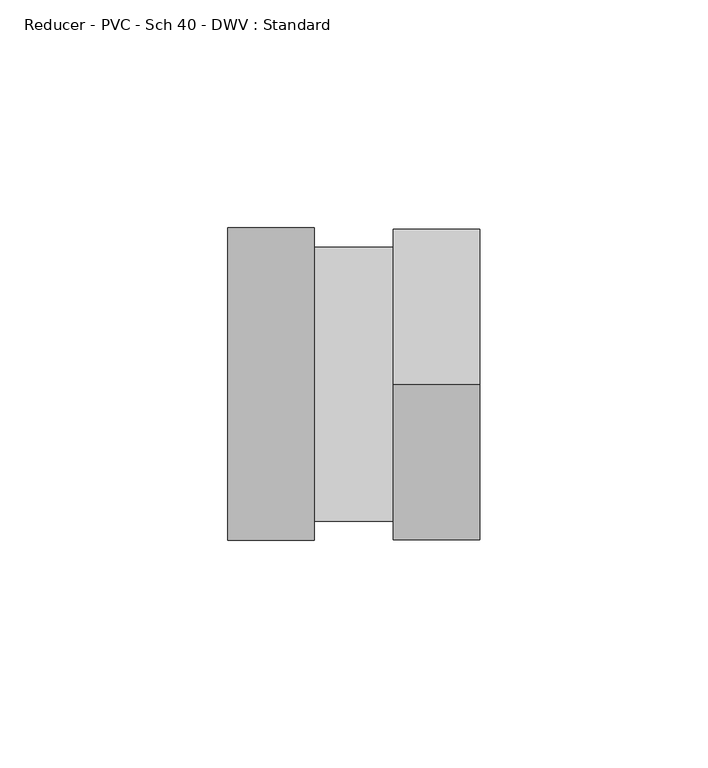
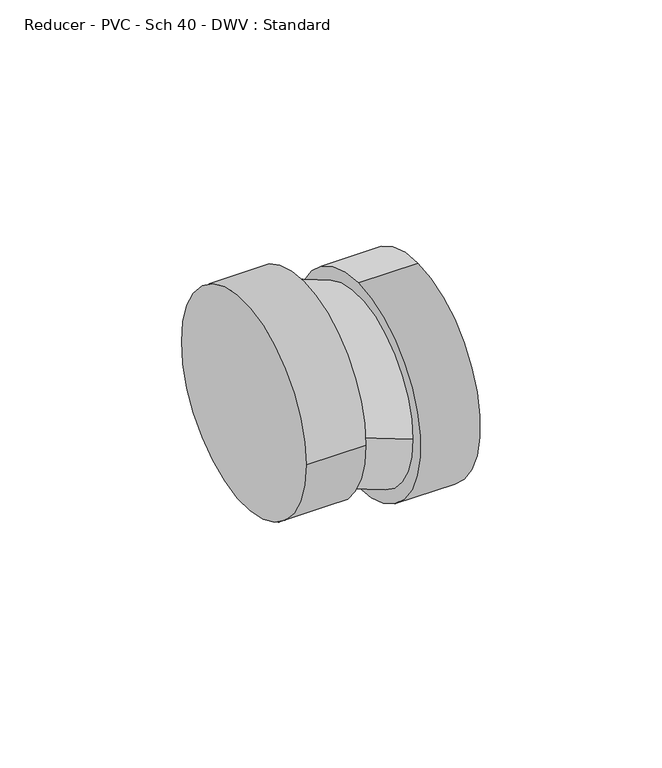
"""IFC4 building model written with IfcOpenShell, lengths in millimetres: pipe fitting geometry, Reducer - PVC - Sch 40 - DWV : Standard."""

import ifcopenshell
import ifcopenshell.guid

model = None  # the IFC model being written
_history = None  # IfcOwnerHistory: only IFC2X3 demands one
_inside = {}  # id of a spatial element -> (the spatial element, [elements in it])
_under = {}  # id of a project, library or spatial element -> (it, [spatial elements below it])
_declared = {}  # id of a project -> (the project, [libraries it declares])
_typed = {}  # id of a type object -> (the type object, [elements of that type])
_made_of = {}  # id of a material, layer set ... -> (it, [elements and type objects made of it])


def new_model(schema):
    """Start an empty IFC model of exactly this schema.

    Asked for "IFC4X3", IfcOpenShell would pick the latest addendum, in which some entities
    have other attributes; the version numbers below select the first issue.
    IFC2X3 requires an IfcOwnerHistory on every rooted entity: one is made here for all.
    """
    global model, _history
    if schema == "IFC4X3":
        model = ifcopenshell.file(schema_version=(4, 3, 0, 0))
    else:
        model = ifcopenshell.file(schema=schema)
    _inside.clear()
    _under.clear()
    _declared.clear()
    _typed.clear()
    _made_of.clear()
    _history = None
    if model.schema == "IFC2X3":
        org = make("IfcOrganization", Name="unknown")
        user = make(
            "IfcPersonAndOrganization",
            ThePerson=make("IfcPerson", FamilyName="unknown"),
            TheOrganization=org,
        )
        app = make(
            "IfcApplication",
            ApplicationDeveloper=org,
            Version="unknown",
            ApplicationFullName="unknown",
            ApplicationIdentifier="unknown",
        )
        _history = make(
            "IfcOwnerHistory",
            OwningUser=user,
            OwningApplication=app,
            ChangeAction="ADDED",
            CreationDate=0,
        )
    return model


def make(cls, **values):
    """One entity of the class cls with the attributes given. An attribute that is None is left unset."""
    return model.create_entity(
        cls, **{name: value for name, value in values.items() if value is not None}
    )


def rooted(cls, **values):
    """An entity with a GlobalId (a new one), such as an element, a storey or a relation."""
    return make(cls, GlobalId=ifcopenshell.guid.new(), OwnerHistory=_history, **values)


def si_unit(unit_type, name, prefix=None):
    """IfcSIUnit, for example si_unit("LENGTHUNIT", "METRE", prefix="MILLI")."""
    return make("IfcSIUnit", UnitType=unit_type, Prefix=prefix, Name=name)


def assignment(units):
    """IfcUnitAssignment: the units of a project."""
    return None if units is None else make("IfcUnitAssignment", Units=units)


def point(xyz):
    """IfcCartesianPoint."""
    return None if xyz is None else make("IfcCartesianPoint", Coordinates=xyz)


def direction(xyz):
    """IfcDirection."""
    return None if xyz is None else make("IfcDirection", DirectionRatios=xyz)


def frame(location, z_axis=None, x_axis=None):
    """IfcAxis2Placement3D, a coordinate frame: its origin and axes. An axis left out is left unset."""
    return make(
        "IfcAxis2Placement3D",
        Location=point(location),
        Axis=direction(z_axis),
        RefDirection=direction(x_axis),
    )


def origin():
    """The frame at (0, 0, 0) with its axes left unset."""
    return frame((0.0, 0.0, 0.0))


def place(relative_to, where):
    """IfcLocalPlacement: puts the frame where relative to a parent placement (None: the world)."""
    return make(
        "IfcLocalPlacement", PlacementRelTo=relative_to, RelativePlacement=where
    )


def context(
    kind, dimensions, precision=None, world=None, true_north=None, identifier=None
):
    """IfcGeometricRepresentationContext, for example the 3D "Model" context."""
    return make(
        "IfcGeometricRepresentationContext",
        ContextIdentifier=identifier,
        ContextType=kind,
        CoordinateSpaceDimension=dimensions,
        Precision=precision,
        WorldCoordinateSystem=world,
        TrueNorth=true_north,
    )


def project(units=None, contexts=None):
    """IfcProject with its units and contexts."""
    return rooted(
        "IfcProject",
        Name="project",
        RepresentationContexts=contexts,
        UnitsInContext=assignment(units),
    )


def spatial(cls, under=None, at=None, **own):
    """A site, building, storey or space (cls), placed at a placement, below another one or the project."""
    s = rooted(cls, ObjectPlacement=at, **own)
    if under is not None:
        _under.setdefault(under.id(), (under, []))[1].append(s)
    return s


def circle_curve(where, radius):
    """IfcCircle in the frame where."""
    return make("IfcCircle", Position=where, Radius=radius)


def trimmed(basis, trim1, trim2, sense, master):
    """IfcTrimmedCurve: the piece of a basis curve between two trims."""
    return make(
        "IfcTrimmedCurve",
        BasisCurve=basis,
        Trim1=trim1,
        Trim2=trim2,
        SenseAgreement=sense,
        MasterRepresentation=master,
    )


def shape(context_of_items, identifier, shape_type, items):
    """IfcShapeRepresentation: the items that make up one representation, for example the "Body"."""
    return make(
        "IfcShapeRepresentation",
        ContextOfItems=context_of_items,
        RepresentationIdentifier=identifier,
        RepresentationType=shape_type,
        Items=items,
    )


def source(mapping_origin, context_of_items, identifier, shape_type, items):
    """IfcRepresentationMap: a shape defined once, which mapped items show again and again."""
    return make(
        "IfcRepresentationMap",
        MappingOrigin=mapping_origin,
        MappedRepresentation=shape(context_of_items, identifier, shape_type, items),
    )


def transform(
    local_origin,
    x_axis=None,
    y_axis=None,
    z_axis=None,
    scale=None,
    scale2=None,
    scale3=None,
    uniform=True,
):
    """IfcCartesianTransformationOperator3D, or its non-uniform kind. x_axis, y_axis, z_axis: its Axis1, 2, 3."""
    if uniform:
        return make(
            "IfcCartesianTransformationOperator3D",
            Axis1=direction(x_axis),
            Axis2=direction(y_axis),
            LocalOrigin=point(local_origin),
            Scale=scale,
            Axis3=direction(z_axis),
        )
    return make(
        "IfcCartesianTransformationOperator3DnonUniform",
        Axis1=direction(x_axis),
        Axis2=direction(y_axis),
        LocalOrigin=point(local_origin),
        Scale=scale,
        Axis3=direction(z_axis),
        Scale2=scale2,
        Scale3=scale3,
    )


def mapped(mapping_source, mapping_target):
    """IfcMappedItem: shows the shape of a source again, moved by a transform."""
    return make(
        "IfcMappedItem", MappingSource=mapping_source, MappingTarget=mapping_target
    )


def made_of(thing, what):
    """Note that an element or type object is made of a material, layer set ...; save() writes the relation."""
    if what is not None:
        _made_of.setdefault(what.id(), (what, []))[1].append(thing)
    return thing


def element(
    cls,
    number,
    at=None,
    inside=None,
    cuts=None,
    type_object=None,
    material=None,
    context=None,
    identifier="Body",
    shape_type=None,
    held_by="IfcProductDefinitionShape",
    body=None,
    shapes=None,
    **own,
):
    """One element of the class cls, such as IfcWall. Its Tag is "e" and its number.

    at: its placement. inside: the storey or other place that contains it. cuts: it is an
    opening in that element (IfcRelVoidsElement). A single representation is given by context,
    identifier, shape_type and body (its items); several are given by shapes. held_by: the class
    of the entity that holds the representations. save() writes the other relations.
    """
    e = rooted(cls, Tag="e%d" % number, ObjectPlacement=at, **own)
    if body is not None:
        shapes = [shape(context, identifier, shape_type, body)]
    if shapes is not None:
        e.Representation = make(held_by, Representations=shapes)
    if inside is not None:
        _inside.setdefault(inside.id(), (inside, []))[1].append(e)
    if cuts is not None:
        rooted(
            "IfcRelVoidsElement", RelatingBuildingElement=cuts, RelatedOpeningElement=e
        )
    if type_object is not None:
        _typed.setdefault(type_object.id(), (type_object, []))[1].append(e)
    return made_of(e, material)


def aggregate(whole, parts):
    """IfcRelAggregates: a whole, such as a stair, and the parts it consists of."""
    return rooted("IfcRelAggregates", RelatingObject=whole, RelatedObjects=parts)


def save(model, path):
    """Write the relations noted so far, then the file.

    IfcRelAggregates (storeys below a building ...), IfcRelContainedInSpatialStructure (elements
    in a storey), IfcRelDefinesByType, IfcRelAssociatesMaterial and IfcRelDeclares: one each for
    every whole, place, type object, material and project.
    """
    for whole, parts in _under.values():
        aggregate(whole, parts)
    for where, things in _inside.values():
        rooted(
            "IfcRelContainedInSpatialStructure",
            RelatedElements=things,
            RelatingStructure=where,
        )
    for kind, things in _typed.values():
        rooted("IfcRelDefinesByType", RelatedObjects=things, RelatingType=kind)
    for what, things in _made_of.values():
        rooted("IfcRelAssociatesMaterial", RelatedObjects=things, RelatingMaterial=what)
    for by, libraries in _declared.values():
        rooted("IfcRelDeclares", RelatingContext=by, RelatedDefinitions=libraries)
    model.write(path)


def plane_surface(at):
    """IfcPlane: the flat surface through the origin of the frame at, square to its z axis."""
    return make("IfcPlane", Position=at)


def cylinder_surface(at, radius):
    """IfcCylindricalSurface: all points at the distance radius from the z axis of the frame at."""
    return make("IfcCylindricalSurface", Position=at, Radius=radius)


def extruded_surface(curve, direction_of_extrusion, depth):
    """IfcSurfaceOfLinearExtrusion: the curve pushed along a direction by depth."""
    return make(
        "IfcSurfaceOfLinearExtrusion",
        SweptCurve=make("IfcArbitraryOpenProfileDef", ProfileType="CURVE", Curve=curve),
        ExtrudedDirection=direction(direction_of_extrusion),
        Depth=depth,
    )


def advanced_brep(points, edges, surfaces, faces):
    """IfcAdvancedBrep: a solid bounded by faces that lie on surfaces and meet in shared edges.

    An edge is (start, end): straight between two places in points (the first is 0);
    or (start, end, curve); or (start, end, curve, False) where it runs against its curve.
    A face is (place in surfaces, loops), or (place, loops, False) where it looks against
    its surface's normal. A loop lists edges by number (the first is 1), with a minus sign
    where the edge is run from its end to its start. The first loop is the outer one.
    """
    corners = [point(p) for p in points]
    vertices = [make("IfcVertexPoint", VertexGeometry=c) for c in corners]
    made = []
    for start, end, *more in edges:
        made.append(
            make(
                "IfcEdgeCurve",
                EdgeStart=vertices[start],
                EdgeEnd=vertices[end],
                EdgeGeometry=more[0] if more else make("IfcPolyline", Points=[corners[start], corners[end]]),
                SameSense=more[1] if len(more) > 1 else True,
            )
        )
    hull = []
    for where, loops, *sense in faces:
        bounds = []
        for j, loop in enumerate(loops):
            ring = [make("IfcOrientedEdge", EdgeElement=made[abs(k) - 1], Orientation=k > 0) for k in loop]
            bounds.append(
                make(
                    "IfcFaceOuterBound" if j == 0 else "IfcFaceBound",
                    Bound=make("IfcEdgeLoop", EdgeList=ring),
                    Orientation=True,
                )
            )
        hull.append(make("IfcAdvancedFace", Bounds=bounds, FaceSurface=surfaces[where], SameSense=sense[0] if sense else True))
    return make("IfcAdvancedBrep", Outer=make("IfcClosedShell", CfsFaces=hull))


def reducer_pvc_sch_40_dwv_standard_540954d9(model_context):
    return source(origin(), model_context, "Body", "AdvancedBrep", [
        advanced_brep(
        [(0.0, -34.3154, 0.0), (0.0, 34.3154, 0.0), (19.05, -34.3154, 0.0), (19.05, 34.3154, 0.0), (19.05, 30.1625, 0.0), (19.05, -30.1625, 0.0), (36.3100938, 30.06572, -6.5696412), (36.3100938, -30.25928, -6.5696412), (36.3100938, -0.09678, 27.7457588), (36.3100938, -0.09678, -40.8850412), (55.3600938, -0.09678, 27.7457588), (55.3600938, -0.09678, -40.8850412)],
        [
            (0, 1, circle_curve(frame((0.0, 0.0, 0.0), z_axis=(-1.0, 0.0, 0.0), x_axis=(0.0, 1.0, 0.0)), 34.3154)),
            (1, 0, circle_curve(frame((0.0, 0.0, 0.0), z_axis=(-1.0, 0.0, 0.0), x_axis=(0.0, 1.0, 0.0)), 34.3154)),
            (2, 3, circle_curve(frame((19.05, 0.0, 0.0), z_axis=(1.0, 0.0, 0.0), x_axis=(0.0, 1.0, 0.0)), 34.3154)),
            (3, 2, circle_curve(frame((19.05, 0.0, 0.0), z_axis=(1.0, 0.0, 0.0), x_axis=(0.0, 1.0, 0.0)), 34.3154)),
            (4, 5, circle_curve(frame((19.05, 0.0, 0.0), z_axis=(-1.0, 0.0, 0.0), x_axis=(0.0, 1.0, 0.0)), 30.1625)),
            (5, 4, circle_curve(frame((19.05, 0.0, 0.0), z_axis=(-1.0, 0.0, 0.0), x_axis=(0.0, 1.0, 0.0)), 30.1625)),
            (0, 2),
            (3, 1),
            (4, 6),
            (6, 7, circle_curve(frame((36.3100938, -0.09678, -6.5696412), z_axis=(-1.0, 0.0, 0.0), x_axis=(0.0, 1.0, 0.0)), 30.1625)),
            (7, 5),
            (7, 6, circle_curve(frame((36.3100938, -0.09678, -6.5696412), z_axis=(-1.0, 0.0, 0.0), x_axis=(0.0, 1.0, 0.0)), 30.1625)),
            (8, 9, circle_curve(frame((36.3100938, -0.09678, -6.5696412), z_axis=(-1.0, 0.0, 0.0), x_axis=(0.0, 0.0, -1.0)), 34.3154)),
            (9, 8, circle_curve(frame((36.3100938, -0.09678, -6.5696412), z_axis=(-1.0, 0.0, 0.0), x_axis=(0.0, 0.0, -1.0)), 34.3154)),
            (10, 11, circle_curve(frame((55.3600938, -0.09678, -6.5696412), z_axis=(1.0, 0.0, 0.0), x_axis=(0.0, 0.0, -1.0)), 34.3154)),
            (11, 10, circle_curve(frame((55.3600938, -0.09678, -6.5696412), z_axis=(1.0, 0.0, 0.0), x_axis=(0.0, 0.0, -1.0)), 34.3154)),
            (8, 10),
            (11, 9),
        ],
        [
            plane_surface(frame((0.0, 0.0, 0.0), z_axis=(-1.0, 0.0, 0.0), x_axis=(0.0, 0.0, 1.0))),
            plane_surface(frame((19.05, 0.0, 0.0), z_axis=(1.0, 0.0, 0.0), x_axis=(0.0, 0.0, 1.0))),
            cylinder_surface(frame((0.0, 0.0, 0.0), z_axis=(-1.0, 0.0, 0.0), x_axis=(0.0, 1.0, 0.0)), 34.3154),
            extruded_surface(trimmed(circle_curve(frame((19.05, 0.0, 0.0), z_axis=(1.0, 0.0, 0.0), x_axis=(0.0, 1.0, 0.0)), 30.1625), [point((19.05, -30.1625, 0.0))], [point((19.05, 30.1625, 0.0))], True, "CARTESIAN"), (17.260093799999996, -0.09678, -6.5696412), 18.46836186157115),
            extruded_surface(trimmed(circle_curve(frame((19.05, 0.0, 0.0), z_axis=(1.0, 0.0, 0.0), x_axis=(0.0, 1.0, 0.0)), 30.1625), [point((19.05, 30.1625, 0.0))], [point((19.05, -30.1625, 0.0))], True, "CARTESIAN"), (17.260093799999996, -0.09678, -6.5696412), 18.46836186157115),
            plane_surface(frame((36.3100938, -0.09678, -6.5696412), z_axis=(-1.0, 0.0, 0.0), x_axis=(0.0, 1.0, 0.0))),
            plane_surface(frame((55.3600938, -0.09678, -6.5696412), z_axis=(1.0, 0.0, 0.0), x_axis=(0.0, 1.0, 0.0))),
            cylinder_surface(frame((36.3100938, -0.09678, -6.5696412), z_axis=(-1.0, 0.0, 0.0), x_axis=(0.0, 0.0, -1.0)), 34.3154),
        ],
        [
            (0, [[1, 2]]),
            (1, [[3, 4], [5, 6]]),
            (2, [[-1, 7, -4, 8]]),
            (2, [[-2, -8, -3, -7]]),
            (3, [[9, 10, 11, -5]]),
            (4, [[-9, -6, -11, 12]]),
            (5, [[13, 14], [-10, -12]]),
            (6, [[15, 16]]),
            (7, [[-13, 17, -16, 18]]),
            (7, [[-14, -18, -15, -17]]),
        ],
    ),
    ])


if __name__ == "__main__":
    model = new_model("IFC4")
    model_context = context("Model", 3, world=origin())
    ifc_project = project(units=[si_unit("LENGTHUNIT", "METRE", prefix="MILLI")], contexts=[model_context])
    site = spatial("IfcSite", under=ifc_project)
    building = spatial("IfcBuilding", under=site)
    placement = place(None, origin())
    reducer_pvc_sch_40_dwv_standard_shape = reducer_pvc_sch_40_dwv_standard_540954d9(model_context)
    element("IfcPipeFitting", 1, ObjectType="Reducer - PVC - Sch 40 - DWV : Standard", at=placement, inside=building, context=model_context, shape_type="MappedRepresentation", body=[
        mapped(reducer_pvc_sch_40_dwv_standard_shape, transform((0.0, 0.0, 0.0), x_axis=(1.0, 0.0, 0.0), y_axis=(0.0, 1.0, 0.0), z_axis=(0.0, 0.0, 1.0))),
    ])
    save(model, "model.ifc")
